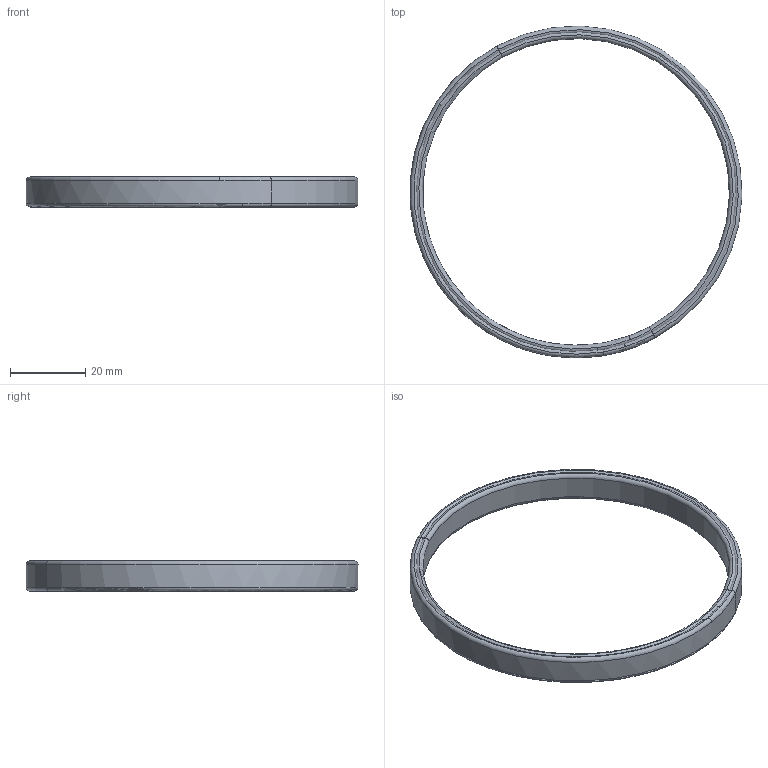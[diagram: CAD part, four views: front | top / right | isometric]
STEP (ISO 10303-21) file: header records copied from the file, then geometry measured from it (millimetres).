
FILE_DESCRIPTION(('CATIA V5 STEP Exchange'),'2;1');
FILE_NAME('C:\Users\Administrator\Desktop\SLT0010282-空气弹簧下端盖卡箍.stp','2021-04-28T05:49:14+00:00',('none'),('none'),'CATIA Version 5 Release 20 GA (IN-10)','CATIA V5 STEP AP214','none');
FILE_SCHEMA(('AUTOMOTIVE_DESIGN { 1 0 10303 214 1 1 1 1 }'));
Length unit declared in the file: millimetre
Products named in the file (1): SLT0010282
Bounding box: 88.27 x 88.29 x 8 mm (x, y, z)
Volume: 8081.9 mm3; surface area: 9758.8 mm2
Topology: 2 solids, 2 shells, 32 faces, 72 edges, 40 vertices
Faces by surface type: torus 24, cylinder 8
Entity records: 880 total; most frequent: CARTESIAN_POINT 145, ORIENTED_EDGE 144, DIRECTION 136, AXIS2_PLACEMENT_3D 97, EDGE_CURVE 72, CIRCLE 64, VERTEX_POINT 40, ADVANCED_FACE 32
